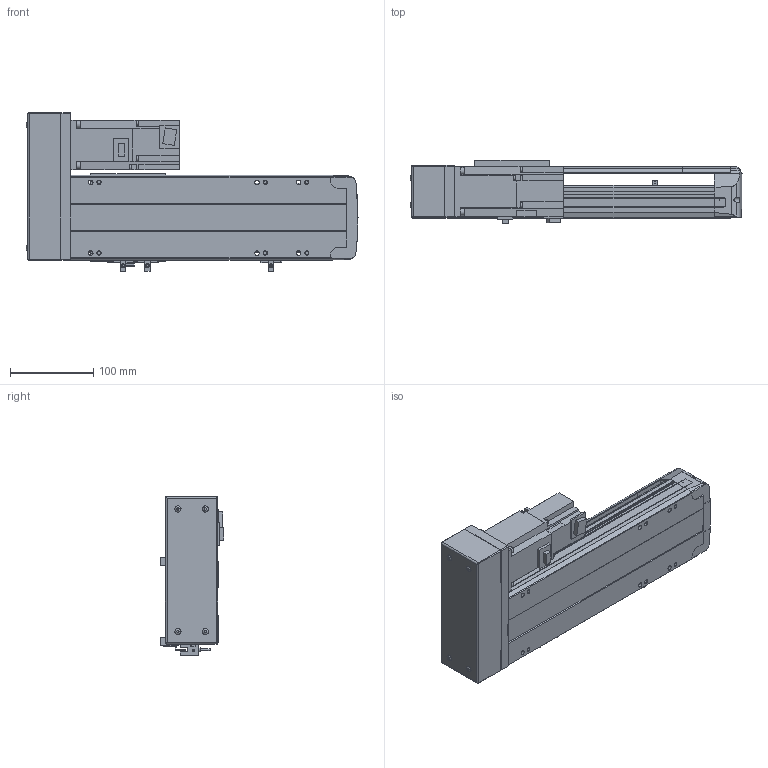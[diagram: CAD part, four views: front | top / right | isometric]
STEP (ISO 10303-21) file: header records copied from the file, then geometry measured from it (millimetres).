
FILE_DESCRIPTION( ( 'STEP AP214' ), '1' );
FILE_NAME( 'x:/temp/worker_27/temp/exporttempdir_6708_80_N6q91/format_0/PSS120-L10-S150-BL-T40-C1-N(0).stp', '2022-06-06T00:28:02', ( 'License CC BY-ND 4.0' ), ( 'CADENAS' ), ' ', 'PARTsolutions', ' ' );
FILE_SCHEMA( ( 'AUTOMOTIVE_DESIGN { 1 0 10303 214 1 1 1 1 }' ) );
Length unit declared in the file: millimetre
Products named in the file (8): PSS120-L10-S150-BL-T40-C1-N(0); _PSS120-S150-BL-C1-N_body; _PSS120-N_Q; _PSS120-BL-C1-N_sl; _PSS120-N_sensor; _PSS120BL-N_h; _T40-p1; _PSS120-S150-BL-N_S
Assembly tree (9 placements, depth 2):
  PSS120-L10-S150-BL-T40-C1-N(0)
    _PSS120-S150-BL-C1-N_body
    _PSS120-N_Q
    _PSS120-BL-C1-N_sl
    _PSS120-N_sensor  x3
    _PSS120BL-N_h
    _T40-p1
    _PSS120-S150-BL-N_S
Bounding box: 399.35 x 76.8 x 191.2 mm (x, y, z)
Volume: 2146685.6 mm3; surface area: 359209 mm2
Topology: 9 solids, 9 shells, 800 faces, 2149 edges, 1422 vertices
Faces by surface type: plane 577, cylinder 205, cone 14, sphere 4
Full cylindrical faces by diameter (mm): 2.8 x3, 4 x4, 4.134 x10, 4.4 x2, 4.5 x4, 4.6 x3, 5 x6, 5.5 x13, 7 x2, 7.4 x4, 8 x4, 8.5 x10, 14 x1, 28 x1, 32 x2, 50 x1
Entity records: 27313 total; most frequent: CARTESIAN_POINT 4167, DIRECTION 3581, ORIENTED_EDGE 3526, EDGE_CURVE 1763, LINE 1293, VECTOR 1293, VERTEX_POINT 1212, AXIS2_PLACEMENT_3D 1144
